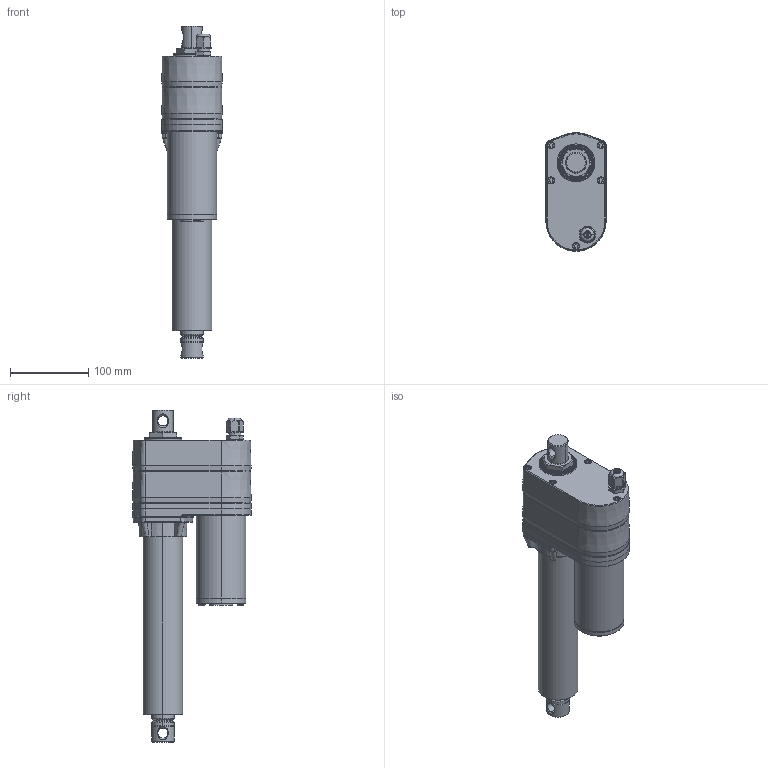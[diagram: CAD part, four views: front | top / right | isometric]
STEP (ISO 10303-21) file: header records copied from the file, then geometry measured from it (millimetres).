
FILE_DESCRIPTION((''),' ');
FILE_NAME('dszy3_lt_ltpot_lths2_102.stp',' ',('R. Lindner'),('MSW GmbH'),' ','ACIS 14.0',' ');
FILE_SCHEMA(('automotive_design'));
Length unit declared in the file: inch
Products named in the file (2): DSZY3-LT-LTPOT-LTHS2-102|NAUO1#I-102-1;°£®Æ-¦ùªø9; DSZY3-LT-LTPOT-LTHS2-102|NAUO2#-2;°£®Æ-±ÛÂà5
Bounding box: 77.15 x 151.65 x 424.7 mm (x, y, z)
Volume: 1992184.1 mm3; surface area: 165887.3 mm2
Topology: 2 solids, 2 shells, 940 faces, 2436 edges, 1540 vertices
Faces by surface type: plane 549, cylinder 195, torus 88, cone 58, bspline 48, sphere 2
Entity records: 38799 total; most frequent: CARTESIAN_POINT 10002, ORIENTED_EDGE 4868, DIRECTION 4116, EDGE_CURVE 2434, VERTEX_POINT 1540, AXIS2_PLACEMENT_3D 1534, LINE 1048, VECTOR 1048
